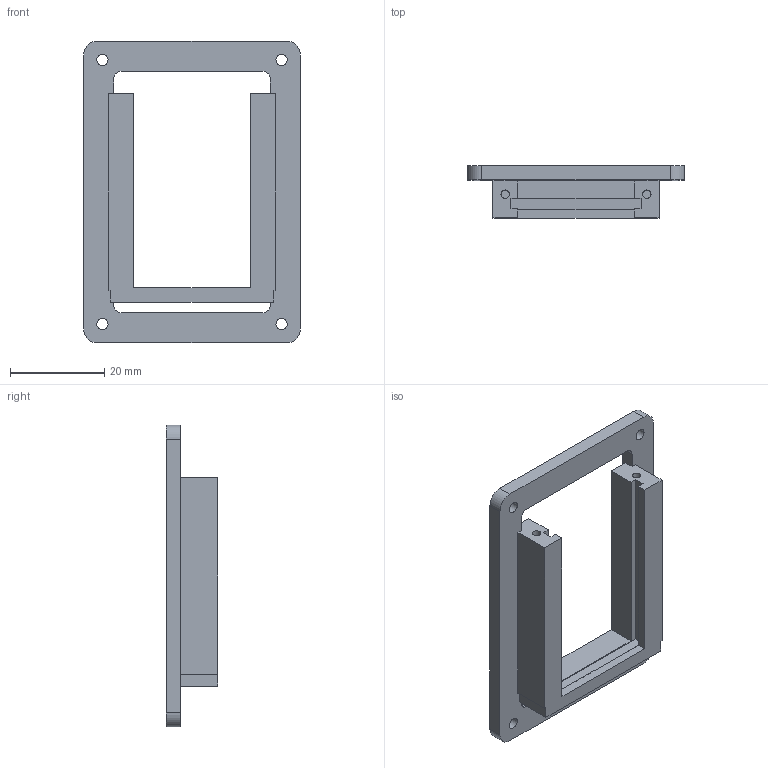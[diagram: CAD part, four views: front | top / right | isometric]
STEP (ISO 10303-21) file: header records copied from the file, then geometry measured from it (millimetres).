
FILE_DESCRIPTION(('Open CASCADE Model'),'2;1');
FILE_NAME('Open CASCADE Shape Model','2026-10-20T14:20:53',('Author'),( 'Open CASCADE'),'Open CASCADE STEP processor 7.8','Open CASCADE 7.8' ,'Unknown');
FILE_SCHEMA(('AUTOMOTIVE_DESIGN { 1 0 10303 214 1 1 1 1 }'));
Length unit declared in the file: millimetre
Products named in the file (1): Open CASCADE STEP translator 7.8 6
Bounding box: 46 x 11 x 64 mm (x, y, z)
Volume: 8519 mm3; surface area: 6913.5 mm2
Topology: 1 solids, 1 shells, 48 faces, 138 edges, 92 vertices
Faces by surface type: plane 34, cylinder 14
Full cylindrical faces by diameter (mm): 1.8 x2, 2.4 x4
Entity records: 3342 total; most frequent: CARTESIAN_POINT 647, DIRECTION 468, LINE 290, VECTOR 290, ORIENTED_EDGE 276, PCURVE 276, DEFINITIONAL_REPRESENTATION 276, EDGE_CURVE 138
